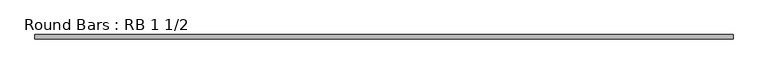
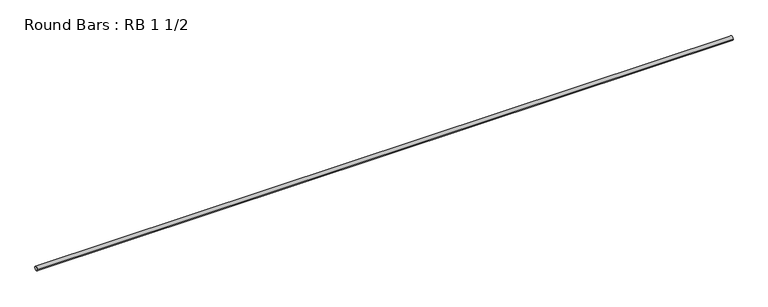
"""IFC4 building model written with IfcOpenShell, lengths in millimetres: member geometry, Round Bars : RB 1 1/2."""

import ifcopenshell
import ifcopenshell.guid

model = None  # the IFC model being written
_history = None  # IfcOwnerHistory: only IFC2X3 demands one
_inside = {}  # id of a spatial element -> (the spatial element, [elements in it])
_under = {}  # id of a project, library or spatial element -> (it, [spatial elements below it])
_declared = {}  # id of a project -> (the project, [libraries it declares])
_typed = {}  # id of a type object -> (the type object, [elements of that type])
_made_of = {}  # id of a material, layer set ... -> (it, [elements and type objects made of it])


def new_model(schema):
    """Start an empty IFC model of exactly this schema.

    Asked for "IFC4X3", IfcOpenShell would pick the latest addendum, in which some entities
    have other attributes; the version numbers below select the first issue.
    IFC2X3 requires an IfcOwnerHistory on every rooted entity: one is made here for all.
    """
    global model, _history
    if schema == "IFC4X3":
        model = ifcopenshell.file(schema_version=(4, 3, 0, 0))
    else:
        model = ifcopenshell.file(schema=schema)
    _inside.clear()
    _under.clear()
    _declared.clear()
    _typed.clear()
    _made_of.clear()
    _history = None
    if model.schema == "IFC2X3":
        org = make("IfcOrganization", Name="unknown")
        user = make(
            "IfcPersonAndOrganization",
            ThePerson=make("IfcPerson", FamilyName="unknown"),
            TheOrganization=org,
        )
        app = make(
            "IfcApplication",
            ApplicationDeveloper=org,
            Version="unknown",
            ApplicationFullName="unknown",
            ApplicationIdentifier="unknown",
        )
        _history = make(
            "IfcOwnerHistory",
            OwningUser=user,
            OwningApplication=app,
            ChangeAction="ADDED",
            CreationDate=0,
        )
    return model


def make(cls, **values):
    """One entity of the class cls with the attributes given. An attribute that is None is left unset."""
    return model.create_entity(
        cls, **{name: value for name, value in values.items() if value is not None}
    )


def rooted(cls, **values):
    """An entity with a GlobalId (a new one), such as an element, a storey or a relation."""
    return make(cls, GlobalId=ifcopenshell.guid.new(), OwnerHistory=_history, **values)


def si_unit(unit_type, name, prefix=None):
    """IfcSIUnit, for example si_unit("LENGTHUNIT", "METRE", prefix="MILLI")."""
    return make("IfcSIUnit", UnitType=unit_type, Prefix=prefix, Name=name)


def assignment(units):
    """IfcUnitAssignment: the units of a project."""
    return None if units is None else make("IfcUnitAssignment", Units=units)


def point(xyz):
    """IfcCartesianPoint."""
    return None if xyz is None else make("IfcCartesianPoint", Coordinates=xyz)


def direction(xyz):
    """IfcDirection."""
    return None if xyz is None else make("IfcDirection", DirectionRatios=xyz)


def frame(location, z_axis=None, x_axis=None):
    """IfcAxis2Placement3D, a coordinate frame: its origin and axes. An axis left out is left unset."""
    return make(
        "IfcAxis2Placement3D",
        Location=point(location),
        Axis=direction(z_axis),
        RefDirection=direction(x_axis),
    )


def frame_2d(location, x_axis=None):
    """IfcAxis2Placement2D, a coordinate frame in the plane: its origin and x axis."""
    return make(
        "IfcAxis2Placement2D", Location=point(location), RefDirection=direction(x_axis)
    )


def origin():
    """The frame at (0, 0, 0) with its axes left unset."""
    return frame((0.0, 0.0, 0.0))


def origin_2d():
    """The frame at (0, 0) in the plane with its x axis left unset."""
    return frame_2d((0.0, 0.0))


def place(relative_to, where):
    """IfcLocalPlacement: puts the frame where relative to a parent placement (None: the world)."""
    return make(
        "IfcLocalPlacement", PlacementRelTo=relative_to, RelativePlacement=where
    )


def context(
    kind, dimensions, precision=None, world=None, true_north=None, identifier=None
):
    """IfcGeometricRepresentationContext, for example the 3D "Model" context."""
    return make(
        "IfcGeometricRepresentationContext",
        ContextIdentifier=identifier,
        ContextType=kind,
        CoordinateSpaceDimension=dimensions,
        Precision=precision,
        WorldCoordinateSystem=world,
        TrueNorth=true_north,
    )


def project(units=None, contexts=None):
    """IfcProject with its units and contexts."""
    return rooted(
        "IfcProject",
        Name="project",
        RepresentationContexts=contexts,
        UnitsInContext=assignment(units),
    )


def spatial(cls, under=None, at=None, **own):
    """A site, building, storey or space (cls), placed at a placement, below another one or the project."""
    s = rooted(cls, ObjectPlacement=at, **own)
    if under is not None:
        _under.setdefault(under.id(), (under, []))[1].append(s)
    return s


def circle_curve(where, radius):
    """IfcCircle in the frame where."""
    return make("IfcCircle", Position=where, Radius=radius)


def trimmed(basis, trim1, trim2, sense, master):
    """IfcTrimmedCurve: the piece of a basis curve between two trims."""
    return make(
        "IfcTrimmedCurve",
        BasisCurve=basis,
        Trim1=trim1,
        Trim2=trim2,
        SenseAgreement=sense,
        MasterRepresentation=master,
    )


def segment(curve, same_sense, transition):
    """IfcCompositeCurveSegment."""
    return make(
        "IfcCompositeCurveSegment",
        Transition=transition,
        SameSense=same_sense,
        ParentCurve=curve,
    )


def composite_curve(segments, self_intersect=None):
    """IfcCompositeCurve: segments joined end to end."""
    return make("IfcCompositeCurve", Segments=segments, SelfIntersect=self_intersect)


def outline(outer, holes=None, kind="AREA"):
    """IfcArbitraryClosedProfileDef: a profile drawn as a closed curve; with holes, ...WithVoids."""
    if holes is None:
        return make("IfcArbitraryClosedProfileDef", ProfileType=kind, OuterCurve=outer)
    return make(
        "IfcArbitraryProfileDefWithVoids",
        ProfileType=kind,
        OuterCurve=outer,
        InnerCurves=holes,
    )


def extrude(swept, where, along, depth):
    """IfcExtrudedAreaSolid: the profile swept, set in the frame where, extruded along a direction by depth."""
    return make(
        "IfcExtrudedAreaSolid",
        SweptArea=swept,
        Position=where,
        ExtrudedDirection=direction(along),
        Depth=depth,
    )


def shape(context_of_items, identifier, shape_type, items):
    """IfcShapeRepresentation: the items that make up one representation, for example the "Body"."""
    return make(
        "IfcShapeRepresentation",
        ContextOfItems=context_of_items,
        RepresentationIdentifier=identifier,
        RepresentationType=shape_type,
        Items=items,
    )


def source(mapping_origin, context_of_items, identifier, shape_type, items):
    """IfcRepresentationMap: a shape defined once, which mapped items show again and again."""
    return make(
        "IfcRepresentationMap",
        MappingOrigin=mapping_origin,
        MappedRepresentation=shape(context_of_items, identifier, shape_type, items),
    )


def transform(
    local_origin,
    x_axis=None,
    y_axis=None,
    z_axis=None,
    scale=None,
    scale2=None,
    scale3=None,
    uniform=True,
):
    """IfcCartesianTransformationOperator3D, or its non-uniform kind. x_axis, y_axis, z_axis: its Axis1, 2, 3."""
    if uniform:
        return make(
            "IfcCartesianTransformationOperator3D",
            Axis1=direction(x_axis),
            Axis2=direction(y_axis),
            LocalOrigin=point(local_origin),
            Scale=scale,
            Axis3=direction(z_axis),
        )
    return make(
        "IfcCartesianTransformationOperator3DnonUniform",
        Axis1=direction(x_axis),
        Axis2=direction(y_axis),
        LocalOrigin=point(local_origin),
        Scale=scale,
        Axis3=direction(z_axis),
        Scale2=scale2,
        Scale3=scale3,
    )


def mapped(mapping_source, mapping_target):
    """IfcMappedItem: shows the shape of a source again, moved by a transform."""
    return make(
        "IfcMappedItem", MappingSource=mapping_source, MappingTarget=mapping_target
    )


def made_of(thing, what):
    """Note that an element or type object is made of a material, layer set ...; save() writes the relation."""
    if what is not None:
        _made_of.setdefault(what.id(), (what, []))[1].append(thing)
    return thing


def element(
    cls,
    number,
    at=None,
    inside=None,
    cuts=None,
    type_object=None,
    material=None,
    context=None,
    identifier="Body",
    shape_type=None,
    held_by="IfcProductDefinitionShape",
    body=None,
    shapes=None,
    **own,
):
    """One element of the class cls, such as IfcWall. Its Tag is "e" and its number.

    at: its placement. inside: the storey or other place that contains it. cuts: it is an
    opening in that element (IfcRelVoidsElement). A single representation is given by context,
    identifier, shape_type and body (its items); several are given by shapes. held_by: the class
    of the entity that holds the representations. save() writes the other relations.
    """
    e = rooted(cls, Tag="e%d" % number, ObjectPlacement=at, **own)
    if body is not None:
        shapes = [shape(context, identifier, shape_type, body)]
    if shapes is not None:
        e.Representation = make(held_by, Representations=shapes)
    if inside is not None:
        _inside.setdefault(inside.id(), (inside, []))[1].append(e)
    if cuts is not None:
        rooted(
            "IfcRelVoidsElement", RelatingBuildingElement=cuts, RelatedOpeningElement=e
        )
    if type_object is not None:
        _typed.setdefault(type_object.id(), (type_object, []))[1].append(e)
    return made_of(e, material)


def aggregate(whole, parts):
    """IfcRelAggregates: a whole, such as a stair, and the parts it consists of."""
    return rooted("IfcRelAggregates", RelatingObject=whole, RelatedObjects=parts)


def save(model, path):
    """Write the relations noted so far, then the file.

    IfcRelAggregates (storeys below a building ...), IfcRelContainedInSpatialStructure (elements
    in a storey), IfcRelDefinesByType, IfcRelAssociatesMaterial and IfcRelDeclares: one each for
    every whole, place, type object, material and project.
    """
    for whole, parts in _under.values():
        aggregate(whole, parts)
    for where, things in _inside.values():
        rooted(
            "IfcRelContainedInSpatialStructure",
            RelatedElements=things,
            RelatingStructure=where,
        )
    for kind, things in _typed.values():
        rooted("IfcRelDefinesByType", RelatedObjects=things, RelatingType=kind)
    for what, things in _made_of.values():
        rooted("IfcRelAssociatesMaterial", RelatedObjects=things, RelatingMaterial=what)
    for by, libraries in _declared.values():
        rooted("IfcRelDeclares", RelatingContext=by, RelatedDefinitions=libraries)
    model.write(path)


def round_bars_rb_1_1_2_3d12519b(model_context):
    return source(origin(), model_context, "Body", "SweptSolid", [
        extrude(outline(composite_curve([segment(trimmed(circle_curve(origin_2d(), 19.05), [point((19.05, 0.0))], [point((-19.05, 0.0))], False, "CARTESIAN"), True, "CONTINUOUS"), segment(trimmed(circle_curve(origin_2d(), 19.05), [point((-19.05, 0.0))], [point((19.05, 0.0))], False, "CARTESIAN"), True, "CONTINUOUS")], self_intersect=False)), frame((-3143.6168665, 0.0, 0.0), z_axis=(1.0, 0.0, 0.0), x_axis=(0.0, 1.0, 0.0)), (0.0, 0.0, 1.0), 6311.739694),
    ])


if __name__ == "__main__":
    model = new_model("IFC4")
    model_context = context("Model", 3, world=origin())
    ifc_project = project(units=[si_unit("LENGTHUNIT", "METRE", prefix="MILLI")], contexts=[model_context])
    site = spatial("IfcSite", under=ifc_project)
    building = spatial("IfcBuilding", under=site)
    placement = place(None, origin())
    round_bars_rb_1_1_2_shape = round_bars_rb_1_1_2_3d12519b(model_context)
    element("IfcMember", 1, ObjectType="Round Bars : RB 1 1/2", at=placement, inside=building, context=model_context, shape_type="MappedRepresentation", body=[
        mapped(round_bars_rb_1_1_2_shape, transform((0.0, 0.0, 0.0), x_axis=(1.0, 0.0, 0.0), y_axis=(0.0, 1.0, 0.0), z_axis=(0.0, 0.0, 1.0))),
    ])
    save(model, "model.ifc")
